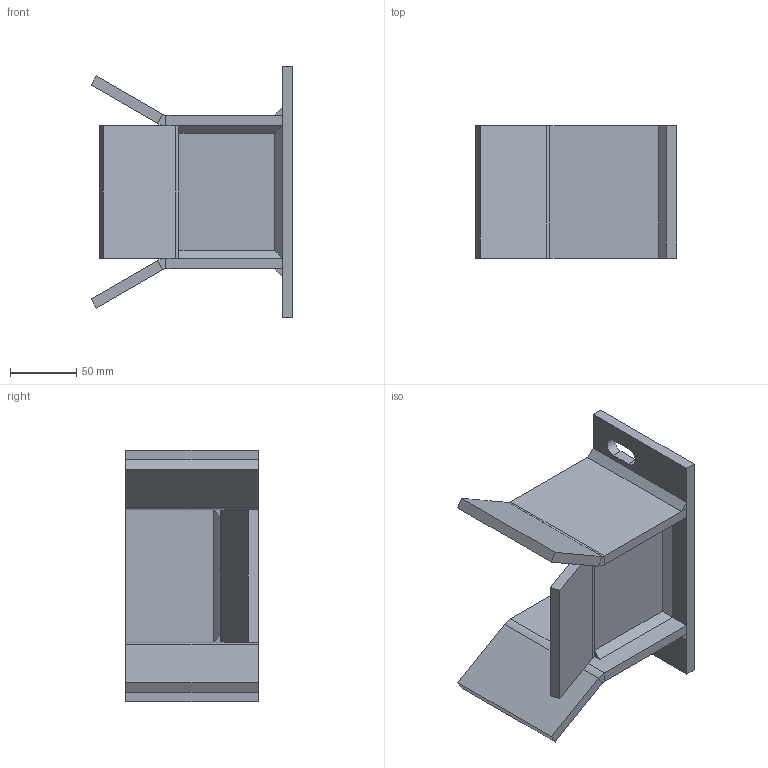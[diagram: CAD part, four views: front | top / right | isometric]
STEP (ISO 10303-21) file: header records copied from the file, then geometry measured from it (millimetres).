
FILE_DESCRIPTION(/* description */ ('Torfangstueck zu FRT Nr.5'),/* implementation_level */ '2;1');
FILE_NAME(/* name */ 'Q:\sge-ma\Produktmanagement-STB\STB\Workspace\stp\010337838.stp',/* time_stamp */ '2016-07-21T10:04:19+02:00',/* author */ ('avschreier'),/* organization */ (''),/* preprocessor_version */ 'ST-DEVELOPER v16.1',/* originating_system */ 'Autodesk Inventor 2016',/* authorisation */ '');
FILE_SCHEMA (('CONFIG_CONTROL_DESIGN'));
Length unit declared in the file: millimetre
Products named in the file (5): 010337838_Schweißnähte; 337000338; 337000337; 337000339; 010337838
Assembly tree (5 placements, depth 2):
  010337838
    010337838_Schweißnähte
    337000338  x2
    337000337
    337000339
Bounding box: 152.3 x 100 x 190 mm (x, y, z)
Volume: 508063.9 mm3; surface area: 154069.9 mm2
Topology: 10 solids, 10 shells, 90 faces, 184 edges, 114 vertices
Faces by surface type: plane 80, cylinder 10
Entity records: 2077 total; most frequent: DIRECTION 344, CARTESIAN_POINT 340, ORIENTED_EDGE 312, EDGE_CURVE 156, LINE 140, VECTOR 140, AXIS2_PLACEMENT_3D 102, VERTEX_POINT 98
